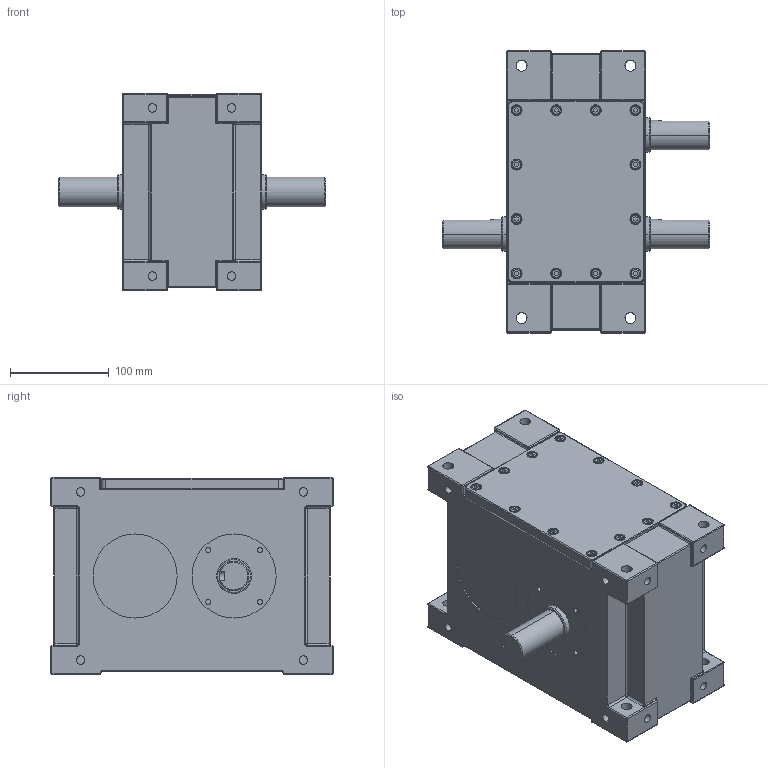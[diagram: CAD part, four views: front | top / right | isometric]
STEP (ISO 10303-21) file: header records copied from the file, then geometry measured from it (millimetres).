
FILE_DESCRIPTION((''),'2;1');
FILE_NAME('P100','2015-01-16T',('松仔'),(''),'PRO/ENGINEER BY PARAMETRIC TECHNOLOGY CORPORATION, 2013430','PRO/ENGINEER BY PARAMETRIC TECHNOLOGY CORPORATION, 2013430','');
FILE_SCHEMA(('CONFIG_CONTROL_DESIGN'));
Length unit declared in the file: millimetre
Products named in the file (1): P100
Bounding box: 270 x 285 x 200 mm (x, y, z)
Volume: 7386481.6 mm3; surface area: 299237.2 mm2
Topology: 1 solids, 1 shells, 643 faces, 1411 edges, 840 vertices
Faces by surface type: cylinder 291, plane 213, torus 66, sphere 50, bspline 20, cone 3
Entity records: 18758 total; most frequent: CARTESIAN_POINT 4315, DIRECTION 3225, ORIENTED_EDGE 2822, EDGE_CURVE 1411, AXIS2_PLACEMENT_3D 1261, VERTEX_POINT 840, EDGE_LOOP 729, VECTOR 703
